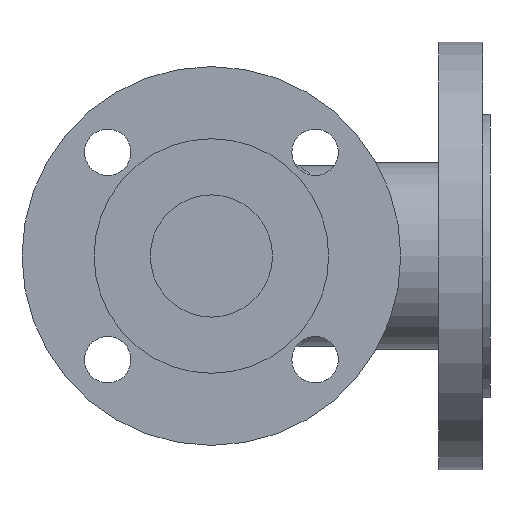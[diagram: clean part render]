
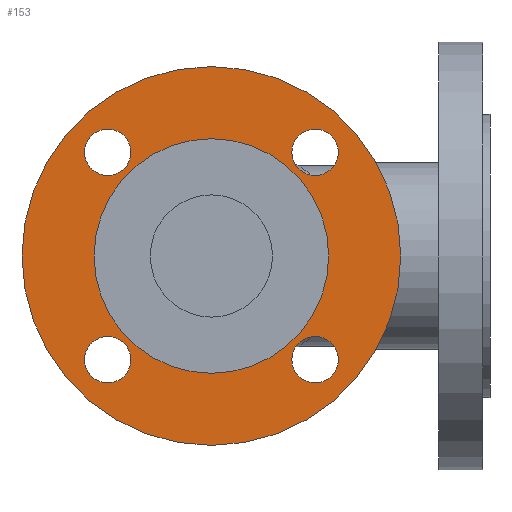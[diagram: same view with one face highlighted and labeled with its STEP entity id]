
A CAD part, front view. The second image highlights one B-rep face of the part: STEP entity #153.
In plain terms, the highlighted planar face has unit normal (0, -1, 0).
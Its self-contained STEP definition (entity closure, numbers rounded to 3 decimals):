
#153=ADVANCED_FACE('',(#710,#711,#712,#713,#714,#715),#709,.T.);
#709=PLANE('',#2362);
#710=FACE_OUTER_BOUND('',#2363,.T.);
#711=FACE_BOUND('',#2364,.T.);
#712=FACE_BOUND('',#2365,.T.);
#713=FACE_BOUND('',#2366,.T.);
#714=FACE_BOUND('',#2367,.T.);
#715=FACE_BOUND('',#2368,.T.);
#2359=CARTESIAN_POINT('',(-144.234,-156.,87.5));
#2360=DIRECTION('',(0.,-1.,0.));
#2361=DIRECTION('',(0.,0.,-1.));
#2362=AXIS2_PLACEMENT_3D('',#2359,#2360,#2361);
#2363=EDGE_LOOP('',(#4762,#4763));
#2364=EDGE_LOOP('',(#4764,#4765));
#2365=EDGE_LOOP('',(#4766,#4767,#4768));
#2366=EDGE_LOOP('',(#4769,#4770));
#2367=EDGE_LOOP('',(#4771,#4772));
#2368=EDGE_LOOP('',(#4773,#4774,#4775));
#4762=ORIENTED_EDGE('',*,*,#5563,.F.);
#4763=ORIENTED_EDGE('',*,*,#5564,.F.);
#4764=ORIENTED_EDGE('',*,*,#5565,.F.);
#4765=ORIENTED_EDGE('',*,*,#5566,.F.);
#4766=ORIENTED_EDGE('',*,*,#5567,.F.);
#4767=ORIENTED_EDGE('',*,*,#5568,.F.);
#4768=ORIENTED_EDGE('',*,*,#5569,.F.);
#4769=ORIENTED_EDGE('',*,*,#5570,.F.);
#4770=ORIENTED_EDGE('',*,*,#5571,.F.);
#4771=ORIENTED_EDGE('',*,*,#5572,.T.);
#4772=ORIENTED_EDGE('',*,*,#5573,.T.);
#4773=ORIENTED_EDGE('',*,*,#5574,.F.);
#4774=ORIENTED_EDGE('',*,*,#5575,.F.);
#4775=ORIENTED_EDGE('',*,*,#5576,.F.);
#5563=EDGE_CURVE('',#6695,#6696,#6697,.T.);
#5564=EDGE_CURVE('',#6696,#6695,#6703,.T.);
#5565=EDGE_CURVE('',#6709,#6710,#6711,.T.);
#5566=EDGE_CURVE('',#6710,#6709,#6717,.T.);
#5567=EDGE_CURVE('',#6723,#6724,#6725,.T.);
#5568=EDGE_CURVE('',#6731,#6723,#6732,.T.);
#5569=EDGE_CURVE('',#6724,#6731,#6738,.T.);
#5570=EDGE_CURVE('',#6744,#6745,#6746,.T.);
#5571=EDGE_CURVE('',#6745,#6744,#6752,.T.);
#5572=EDGE_CURVE('',#6758,#6759,#6760,.T.);
#5573=EDGE_CURVE('',#6759,#6758,#6766,.T.);
#5574=EDGE_CURVE('',#6772,#6773,#6774,.T.);
#5575=EDGE_CURVE('',#6780,#6772,#6781,.T.);
#5576=EDGE_CURVE('',#6773,#6780,#6787,.T.);
#6695=VERTEX_POINT('',#9416);
#6696=VERTEX_POINT('',#9417);
#6697=CIRCLE('',#9421,77.5);
#6703=CIRCLE('',#9425,77.5);
#6709=VERTEX_POINT('',#9426);
#6710=VERTEX_POINT('',#9427);
#6711=CIRCLE('',#9431,9.5);
#6717=CIRCLE('',#9435,9.5);
#6723=VERTEX_POINT('',#9436);
#6724=VERTEX_POINT('',#9437);
#6725=CIRCLE('',#9441,9.5);
#6731=VERTEX_POINT('',#9442);
#6732=CIRCLE('',#9446,9.5);
#6738=CIRCLE('',#9450,9.5);
#6744=VERTEX_POINT('',#9451);
#6745=VERTEX_POINT('',#9452);
#6746=CIRCLE('',#9456,9.5);
#6752=CIRCLE('',#9460,9.5);
#6758=VERTEX_POINT('',#9461);
#6759=VERTEX_POINT('',#9462);
#6760=CIRCLE('',#9466,48.);
#6766=CIRCLE('',#9470,48.);
#6772=VERTEX_POINT('',#9471);
#6773=VERTEX_POINT('',#9472);
#6774=CIRCLE('',#9476,9.5);
#6780=VERTEX_POINT('',#9477);
#6781=CIRCLE('',#9481,9.5);
#6787=CIRCLE('',#9485,9.5);
#9416=CARTESIAN_POINT('',(0.,-156.,-77.5));
#9417=CARTESIAN_POINT('',(0.,-156.,77.5));
#9418=CARTESIAN_POINT('',(0.,-156.,0.));
#9419=DIRECTION('',(0.,1.,0.));
#9420=DIRECTION('',(0.,0.,1.));
#9421=AXIS2_PLACEMENT_3D('',#9418,#9419,#9420);
#9422=CARTESIAN_POINT('',(0.,-156.,0.));
#9423=DIRECTION('',(0.,1.,0.));
#9424=DIRECTION('',(0.,0.,1.));
#9425=AXIS2_PLACEMENT_3D('',#9422,#9423,#9424);
#9426=CARTESIAN_POINT('',(42.426,-156.,-51.926));
#9427=CARTESIAN_POINT('',(42.426,-156.,-32.926));
#9428=CARTESIAN_POINT('',(42.426,-156.,-42.426));
#9429=DIRECTION('',(0.,-1.,0.));
#9430=DIRECTION('',(0.,0.,1.));
#9431=AXIS2_PLACEMENT_3D('',#9428,#9429,#9430);
#9432=CARTESIAN_POINT('',(42.426,-156.,-42.426));
#9433=DIRECTION('',(0.,-1.,0.));
#9434=DIRECTION('',(0.,0.,1.));
#9435=AXIS2_PLACEMENT_3D('',#9432,#9433,#9434);
#9436=CARTESIAN_POINT('',(42.426,-156.,51.926));
#9437=CARTESIAN_POINT('',(32.926,-156.,42.426));
#9438=CARTESIAN_POINT('',(42.426,-156.,42.426));
#9439=DIRECTION('',(0.,-1.,0.));
#9440=DIRECTION('',(-1.,0.,0.));
#9441=AXIS2_PLACEMENT_3D('',#9438,#9439,#9440);
#9442=CARTESIAN_POINT('',(42.427,-156.,32.926));
#9443=CARTESIAN_POINT('',(42.426,-156.,42.426));
#9444=DIRECTION('',(0.,-1.,0.));
#9445=DIRECTION('',(-1.,0.,0.));
#9446=AXIS2_PLACEMENT_3D('',#9443,#9444,#9445);
#9447=CARTESIAN_POINT('',(42.426,-156.,42.426));
#9448=DIRECTION('',(0.,-1.,0.));
#9449=DIRECTION('',(-1.,0.,0.));
#9450=AXIS2_PLACEMENT_3D('',#9447,#9448,#9449);
#9451=CARTESIAN_POINT('',(-42.426,-156.,51.926));
#9452=CARTESIAN_POINT('',(-42.426,-156.,32.926));
#9453=CARTESIAN_POINT('',(-42.426,-156.,42.426));
#9454=DIRECTION('',(0.,-1.,0.));
#9455=DIRECTION('',(0.,0.,-1.));
#9456=AXIS2_PLACEMENT_3D('',#9453,#9454,#9455);
#9457=CARTESIAN_POINT('',(-42.426,-156.,42.426));
#9458=DIRECTION('',(0.,-1.,0.));
#9459=DIRECTION('',(0.,0.,-1.));
#9460=AXIS2_PLACEMENT_3D('',#9457,#9458,#9459);
#9461=CARTESIAN_POINT('',(0.,-156.,48.));
#9462=CARTESIAN_POINT('',(0.,-156.,-48.));
#9463=CARTESIAN_POINT('',(0.,-156.,0.));
#9464=DIRECTION('',(0.,1.,0.));
#9465=DIRECTION('',(0.,0.,1.));
#9466=AXIS2_PLACEMENT_3D('',#9463,#9464,#9465);
#9467=CARTESIAN_POINT('',(0.,-156.,0.));
#9468=DIRECTION('',(0.,1.,0.));
#9469=DIRECTION('',(0.,0.,1.));
#9470=AXIS2_PLACEMENT_3D('',#9467,#9468,#9469);
#9471=CARTESIAN_POINT('',(-42.427,-156.,-51.926));
#9472=CARTESIAN_POINT('',(-32.926,-156.,-42.426));
#9473=CARTESIAN_POINT('',(-42.426,-156.,-42.426));
#9474=DIRECTION('',(0.,-1.,0.));
#9475=DIRECTION('',(1.,0.,0.));
#9476=AXIS2_PLACEMENT_3D('',#9473,#9474,#9475);
#9477=CARTESIAN_POINT('',(-42.426,-156.,-32.926));
#9478=CARTESIAN_POINT('',(-42.426,-156.,-42.426));
#9479=DIRECTION('',(0.,-1.,0.));
#9480=DIRECTION('',(1.,0.,0.));
#9481=AXIS2_PLACEMENT_3D('',#9478,#9479,#9480);
#9482=CARTESIAN_POINT('',(-42.426,-156.,-42.426));
#9483=DIRECTION('',(0.,-1.,0.));
#9484=DIRECTION('',(1.,0.,0.));
#9485=AXIS2_PLACEMENT_3D('',#9482,#9483,#9484);
